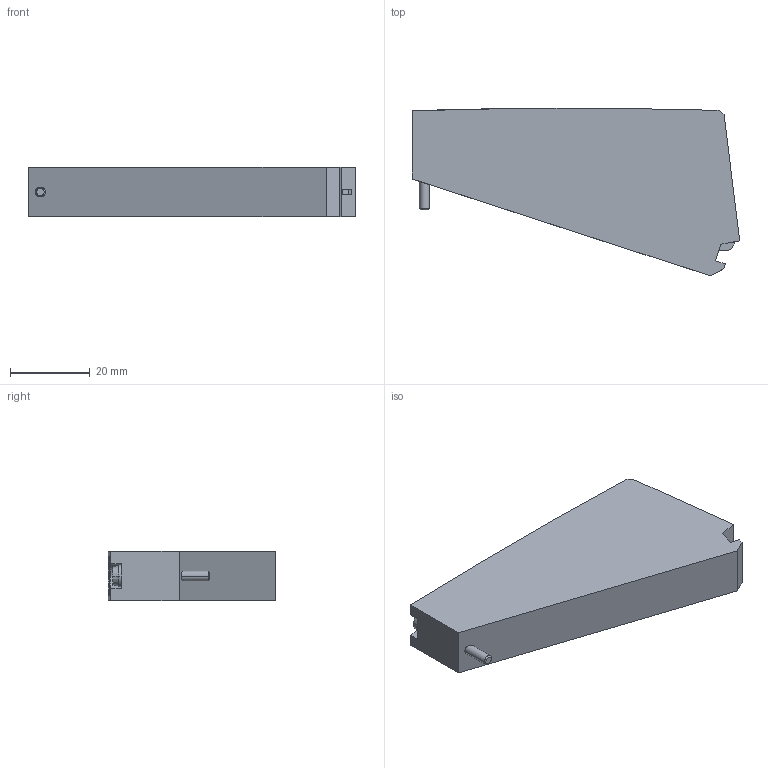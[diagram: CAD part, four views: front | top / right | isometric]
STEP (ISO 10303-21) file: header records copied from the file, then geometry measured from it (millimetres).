
FILE_DESCRIPTION((''),'2;1');
FILE_NAME('R422102430','2015-08-03T',('UAH1HC'),(''),'PRO/ENGINEER BY PARAMETRIC TECHNOLOGY CORPORATION, 2012421','PRO/ENGINEER BY PARAMETRIC TECHNOLOGY CORPORATION, 2012421','');
FILE_SCHEMA(('CONFIG_CONTROL_DESIGN','SHAPE_APPEARANCE_LAYERS_GROUPS'));
Length unit declared in the file: millimetre
Products named in the file (1): R422102430
Bounding box: 81.99 x 42.01 x 12.3 mm (x, y, z)
Volume: 29529.1 mm3; surface area: 7776.8 mm2
Topology: 1 solids, 1 shells, 72 faces, 187 edges, 121 vertices
Faces by surface type: plane 44, cylinder 16, cone 4, torus 4, sphere 4
Entity records: 2404 total; most frequent: CARTESIAN_POINT 546, DIRECTION 385, ORIENTED_EDGE 370, EDGE_CURVE 185, AXIS2_PLACEMENT_3D 139, VERTEX_POINT 121, VECTOR 107, LINE 107
